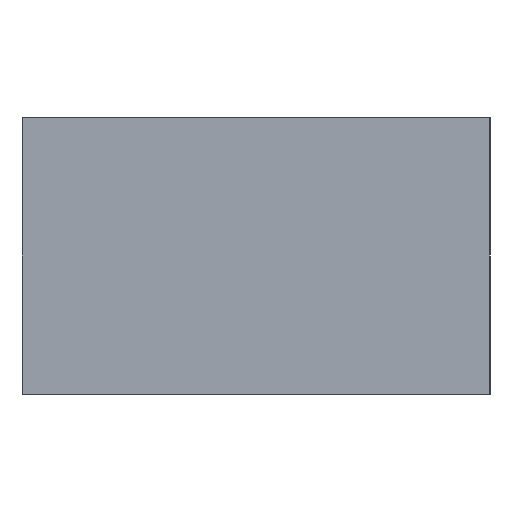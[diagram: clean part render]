
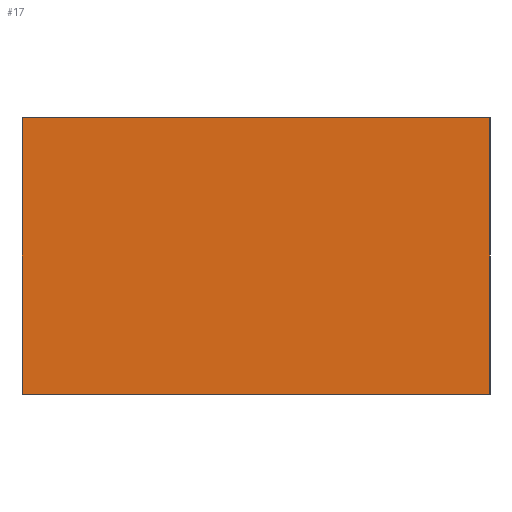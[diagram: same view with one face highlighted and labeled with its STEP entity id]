
A CAD part, left-side view. The second image highlights one B-rep face of the part: STEP entity #17.
In plain terms, the highlighted planar face has unit normal (-1, 0, 0).
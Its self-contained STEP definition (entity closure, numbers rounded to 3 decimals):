
#17 = ADVANCED_FACE('',(#18),#32,.F.);
#18 = FACE_BOUND('',#19,.F.);
#19 = EDGE_LOOP('',(#20,#55,#83,#111));
#20 = ORIENTED_EDGE('',*,*,#21,.F.);
#21 = EDGE_CURVE('',#22,#24,#26,.T.);
#22 = VERTEX_POINT('',#23);
#23 = CARTESIAN_POINT('',(22.6,-52.7,-15.01));
#24 = VERTEX_POINT('',#25);
#25 = CARTESIAN_POINT('',(22.6,-52.7,-14.301));
#26 = SURFACE_CURVE('',#27,(#31,#43),.PCURVE_S1.);
#27 = LINE('',#28,#29);
#28 = CARTESIAN_POINT('',(22.6,-52.7,-15.01));
#29 = VECTOR('',#30,1.);
#30 = DIRECTION('',(0.,0.,1.));
#31 = PCURVE('',#32,#37);
#32 = PLANE('',#33);
#33 = AXIS2_PLACEMENT_3D('',#34,#35,#36);
#34 = CARTESIAN_POINT('',(22.6,-52.7,-15.01));
#35 = DIRECTION('',(1.,0.,-0.));
#36 = DIRECTION('',(0.,0.,1.));
#37 = DEFINITIONAL_REPRESENTATION('',(#38),#42);
#38 = LINE('',#39,#40);
#39 = CARTESIAN_POINT('',(0.,0.));
#40 = VECTOR('',#41,1.);
#41 = DIRECTION('',(1.,0.));
#42 = ( GEOMETRIC_REPRESENTATION_CONTEXT(2) 
PARAMETRIC_REPRESENTATION_CONTEXT() REPRESENTATION_CONTEXT('2D SPACE',''
  ) );
#43 = PCURVE('',#44,#49);
#44 = PLANE('',#45);
#45 = AXIS2_PLACEMENT_3D('',#46,#47,#48);
#46 = CARTESIAN_POINT('',(22.6,-52.7,-15.01));
#47 = DIRECTION('',(-0.,1.,0.));
#48 = DIRECTION('',(0.,0.,1.));
#49 = DEFINITIONAL_REPRESENTATION('',(#50),#54);
#50 = LINE('',#51,#52);
#51 = CARTESIAN_POINT('',(0.,0.));
#52 = VECTOR('',#53,1.);
#53 = DIRECTION('',(1.,0.));
#54 = ( GEOMETRIC_REPRESENTATION_CONTEXT(2) 
PARAMETRIC_REPRESENTATION_CONTEXT() REPRESENTATION_CONTEXT('2D SPACE',''
  ) );
#55 = ORIENTED_EDGE('',*,*,#56,.T.);
#56 = EDGE_CURVE('',#22,#57,#59,.T.);
#57 = VERTEX_POINT('',#58);
#58 = CARTESIAN_POINT('',(22.6,-51.5,-15.01));
#59 = SURFACE_CURVE('',#60,(#64,#71),.PCURVE_S1.);
#60 = LINE('',#61,#62);
#61 = CARTESIAN_POINT('',(22.6,-52.7,-15.01));
#62 = VECTOR('',#63,1.);
#63 = DIRECTION('',(-0.,1.,0.));
#64 = PCURVE('',#32,#65);
#65 = DEFINITIONAL_REPRESENTATION('',(#66),#70);
#66 = LINE('',#67,#68);
#67 = CARTESIAN_POINT('',(0.,0.));
#68 = VECTOR('',#69,1.);
#69 = DIRECTION('',(0.,-1.));
#70 = ( GEOMETRIC_REPRESENTATION_CONTEXT(2) 
PARAMETRIC_REPRESENTATION_CONTEXT() REPRESENTATION_CONTEXT('2D SPACE',''
  ) );
#71 = PCURVE('',#72,#77);
#72 = PLANE('',#73);
#73 = AXIS2_PLACEMENT_3D('',#74,#75,#76);
#74 = CARTESIAN_POINT('',(22.6,-52.7,-15.01));
#75 = DIRECTION('',(0.,0.,1.));
#76 = DIRECTION('',(1.,0.,-0.));
#77 = DEFINITIONAL_REPRESENTATION('',(#78),#82);
#78 = LINE('',#79,#80);
#79 = CARTESIAN_POINT('',(0.,0.));
#80 = VECTOR('',#81,1.);
#81 = DIRECTION('',(0.,1.));
#82 = ( GEOMETRIC_REPRESENTATION_CONTEXT(2) 
PARAMETRIC_REPRESENTATION_CONTEXT() REPRESENTATION_CONTEXT('2D SPACE',''
  ) );
#83 = ORIENTED_EDGE('',*,*,#84,.T.);
#84 = EDGE_CURVE('',#57,#85,#87,.T.);
#85 = VERTEX_POINT('',#86);
#86 = CARTESIAN_POINT('',(22.6,-51.5,-14.301));
#87 = SURFACE_CURVE('',#88,(#92,#99),.PCURVE_S1.);
#88 = LINE('',#89,#90);
#89 = CARTESIAN_POINT('',(22.6,-51.5,-15.01));
#90 = VECTOR('',#91,1.);
#91 = DIRECTION('',(0.,0.,1.));
#92 = PCURVE('',#32,#93);
#93 = DEFINITIONAL_REPRESENTATION('',(#94),#98);
#94 = LINE('',#95,#96);
#95 = CARTESIAN_POINT('',(0.,-1.2));
#96 = VECTOR('',#97,1.);
#97 = DIRECTION('',(1.,0.));
#98 = ( GEOMETRIC_REPRESENTATION_CONTEXT(2) 
PARAMETRIC_REPRESENTATION_CONTEXT() REPRESENTATION_CONTEXT('2D SPACE',''
  ) );
#99 = PCURVE('',#100,#105);
#100 = PLANE('',#101);
#101 = AXIS2_PLACEMENT_3D('',#102,#103,#104);
#102 = CARTESIAN_POINT('',(22.6,-51.5,-15.01));
#103 = DIRECTION('',(-0.,1.,0.));
#104 = DIRECTION('',(0.,0.,1.));
#105 = DEFINITIONAL_REPRESENTATION('',(#106),#110);
#106 = LINE('',#107,#108);
#107 = CARTESIAN_POINT('',(0.,0.));
#108 = VECTOR('',#109,1.);
#109 = DIRECTION('',(1.,0.));
#110 = ( GEOMETRIC_REPRESENTATION_CONTEXT(2) 
PARAMETRIC_REPRESENTATION_CONTEXT() REPRESENTATION_CONTEXT('2D SPACE',''
  ) );
#111 = ORIENTED_EDGE('',*,*,#112,.F.);
#112 = EDGE_CURVE('',#24,#85,#113,.T.);
#113 = SURFACE_CURVE('',#114,(#118,#125),.PCURVE_S1.);
#114 = LINE('',#115,#116);
#115 = CARTESIAN_POINT('',(22.6,-52.7,-14.301));
#116 = VECTOR('',#117,1.);
#117 = DIRECTION('',(-0.,1.,0.));
#118 = PCURVE('',#32,#119);
#119 = DEFINITIONAL_REPRESENTATION('',(#120),#124);
#120 = LINE('',#121,#122);
#121 = CARTESIAN_POINT('',(0.709,0.));
#122 = VECTOR('',#123,1.);
#123 = DIRECTION('',(0.,-1.));
#124 = ( GEOMETRIC_REPRESENTATION_CONTEXT(2) 
PARAMETRIC_REPRESENTATION_CONTEXT() REPRESENTATION_CONTEXT('2D SPACE',''
  ) );
#125 = PCURVE('',#126,#131);
#126 = PLANE('',#127);
#127 = AXIS2_PLACEMENT_3D('',#128,#129,#130);
#128 = CARTESIAN_POINT('',(22.6,-52.7,-14.301));
#129 = DIRECTION('',(0.,0.,1.));
#130 = DIRECTION('',(1.,0.,-0.));
#131 = DEFINITIONAL_REPRESENTATION('',(#132),#136);
#132 = LINE('',#133,#134);
#133 = CARTESIAN_POINT('',(0.,0.));
#134 = VECTOR('',#135,1.);
#135 = DIRECTION('',(0.,1.));
#136 = ( GEOMETRIC_REPRESENTATION_CONTEXT(2) 
PARAMETRIC_REPRESENTATION_CONTEXT() REPRESENTATION_CONTEXT('2D SPACE',''
  ) );
